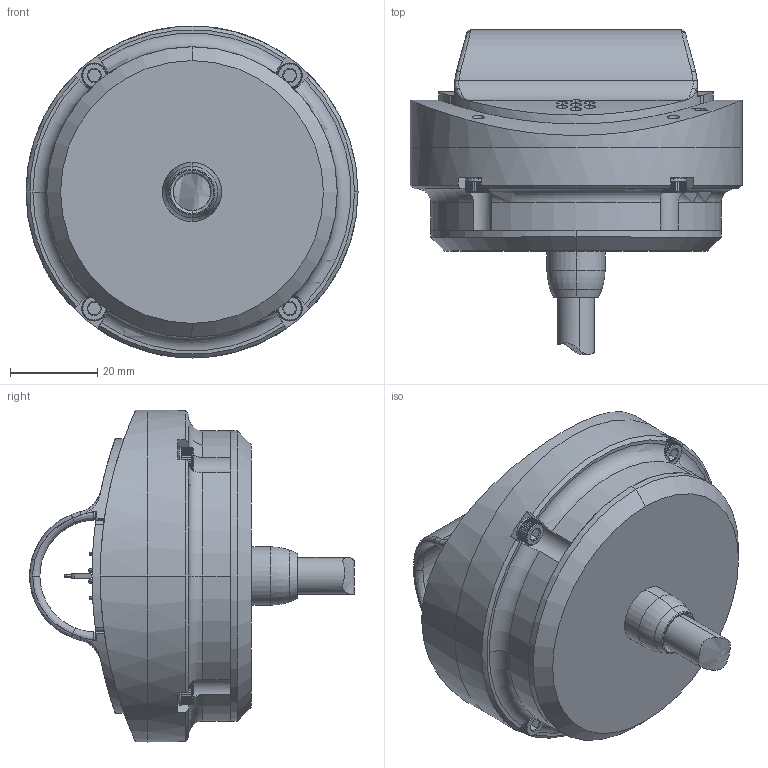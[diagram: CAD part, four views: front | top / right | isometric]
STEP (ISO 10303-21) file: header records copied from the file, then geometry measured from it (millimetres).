
FILE_DESCRIPTION (( 'STEP AP214' ), '1' );
FILE_NAME ('Model 503-1 MCIL6M RevB.STEP', '2025-08-17T23:42:19', ( '' ), ( '' ), 'SwSTEP 2.0', 'SolidWorks 2023', '' );
FILE_SCHEMA (( 'AUTOMOTIVE_DESIGN' ));
Length unit declared in the file: inch
Products named in the file (1): Model 503-1 MCIL6M RevB
Bounding box: 76.2 x 74.55 x 76.2 mm (x, y, z)
Volume: 147419.2 mm3; surface area: 42795 mm2
Topology: 14 solids, 16 shells, 1370 faces, 3483 edges, 2156 vertices
Faces by surface type: cylinder 617, plane 585, cone 78, bspline 47, torus 41, sphere 2
Entity records: 75499 total; most frequent: CARTESIAN_POINT 26180, ORIENTED_EDGE 6950, DIRECTION 6173, EDGE_CURVE 3475, AXIS2_PLACEMENT_3D 2379, VERTEX_POINT 2154, EDGE_LOOP 1431, LINE 1415
